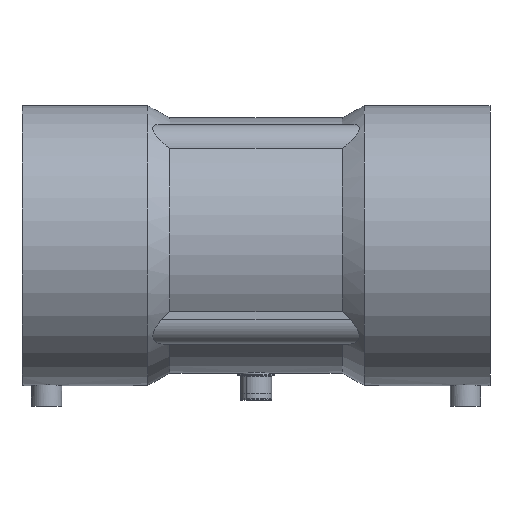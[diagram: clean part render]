
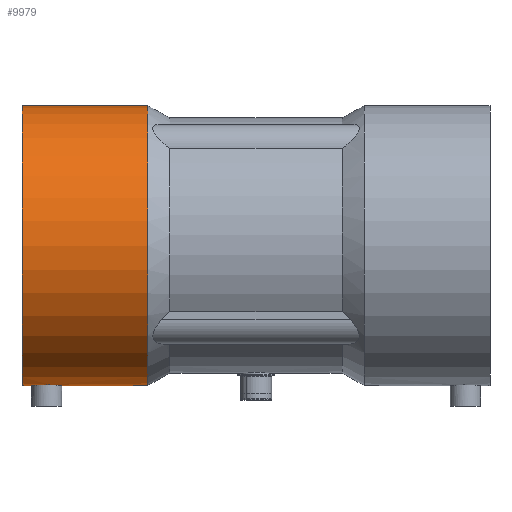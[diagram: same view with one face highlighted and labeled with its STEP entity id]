
A CAD part, front view. The second image highlights one B-rep face of the part: STEP entity #9979.
In plain terms, the highlighted cylindrical face has radius 74 mm (diameter 148 mm), a partial arc.
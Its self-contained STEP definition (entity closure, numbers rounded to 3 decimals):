
#5754 = LINE ( 'NONE', #5755, #8461 ) ;
#5755 = CARTESIAN_POINT ( 'NONE',  ( -95.25, 0., -74. ) ) ;
#5763 = LINE ( 'NONE', #5764, #8465 ) ;
#5764 = CARTESIAN_POINT ( 'NONE',  ( -95.25, 0., 74. ) ) ;
#5768 = DIRECTION ( 'NONE',  ( -1., 0., 0. ) ) ;
#5769 = LINE ( 'NONE', #5770, #8463 ) ;
#5770 = CARTESIAN_POINT ( 'NONE',  ( -95.25, 0., -74. ) ) ;
#5771 = DIRECTION ( 'NONE',  ( -1., 0., 0. ) ) ;
#5773 = CARTESIAN_POINT ( 'NONE',  ( -124., 0., 0. ) ) ;
#5774 = DIRECTION ( 'NONE',  ( -1., 0., 0. ) ) ;
#5775 = DIRECTION ( 'NONE',  ( 0., 0., -1. ) ) ;
#5777 = DIRECTION ( 'NONE',  ( -1., 0., 0. ) ) ;
#5780 = CARTESIAN_POINT ( 'NONE',  ( -57.5, 0., 0. ) ) ;
#5781 = DIRECTION ( 'NONE',  ( -1., 0., 0. ) ) ;
#5782 = DIRECTION ( 'NONE',  ( 0., 0., -1. ) ) ;
#5784 = CARTESIAN_POINT ( 'NONE',  ( -103., -0.529, -74. ) ) ;
#5788 = CARTESIAN_POINT ( 'NONE',  ( -103., 0., -74. ) ) ;
#5792 = CARTESIAN_POINT ( 'NONE',  ( -103.052, -1.049, -73.994 ) ) ;
#5793 = CARTESIAN_POINT ( 'NONE',  ( -103.205, -1.816, -73.978 ) ) ;
#5794 = CARTESIAN_POINT ( 'NONE',  ( -103.268, -2.07, -73.971 ) ) ;
#5795 = CARTESIAN_POINT ( 'NONE',  ( -103.42, -2.573, -73.956 ) ) ;
#5796 = CARTESIAN_POINT ( 'NONE',  ( -103.51, -2.823, -73.947 ) ) ;
#5797 = CARTESIAN_POINT ( 'NONE',  ( -103.811, -3.549, -73.916 ) ) ;
#5798 = CARTESIAN_POINT ( 'NONE',  ( -104.057, -4.009, -73.893 ) ) ;
#5799 = CARTESIAN_POINT ( 'NONE',  ( -104.638, -4.878, -73.84 ) ) ;
#5800 = CARTESIAN_POINT ( 'NONE',  ( -104.975, -5.289, -73.812 ) ) ;
#5801 = CARTESIAN_POINT ( 'NONE',  ( -105.713, -6.027, -73.755 ) ) ;
#5802 = CARTESIAN_POINT ( 'NONE',  ( -106.116, -6.358, -73.727 ) ) ;
#5803 = CARTESIAN_POINT ( 'NONE',  ( -106.772, -6.796, -73.687 ) ) ;
#5804 = CARTESIAN_POINT ( 'NONE',  ( -106.999, -6.932, -73.675 ) ) ;
#5805 = CARTESIAN_POINT ( 'NONE',  ( -107.46, -7.179, -73.651 ) ) ;
#5806 = CARTESIAN_POINT ( 'NONE',  ( -107.932, -7.402, -73.629 ) ) ;
#5807 = CARTESIAN_POINT ( 'NONE',  ( -108.423, -7.578, -73.611 ) ) ;
#5808 = CARTESIAN_POINT ( 'NONE',  ( -108.924, -7.73, -73.595 ) ) ;
#5809 = CARTESIAN_POINT ( 'NONE',  ( -109.181, -7.795, -73.588 ) ) ;
#5810 = CARTESIAN_POINT ( 'NONE',  ( -109.955, -7.949, -73.572 ) ) ;
#5811 = CARTESIAN_POINT ( 'NONE',  ( -110.475, -8., -73.566 ) ) ;
#5812 = CARTESIAN_POINT ( 'NONE',  ( -111.519, -8., -73.566 ) ) ;
#5813 = CARTESIAN_POINT ( 'NONE',  ( -112.05, -7.948, -73.572 ) ) ;
#5814 = CARTESIAN_POINT ( 'NONE',  ( -113.076, -7.744, -73.594 ) ) ;
#5815 = CARTESIAN_POINT ( 'NONE',  ( -113.575, -7.592, -73.61 ) ) ;
#5816 = CARTESIAN_POINT ( 'NONE',  ( -114.302, -7.292, -73.64 ) ) ;
#5817 = CARTESIAN_POINT ( 'NONE',  ( -114.542, -7.178, -73.651 ) ) ;
#5818 = CARTESIAN_POINT ( 'NONE',  ( -115.005, -6.93, -73.675 ) ) ;
#5819 = CARTESIAN_POINT ( 'NONE',  ( -115.229, -6.796, -73.687 ) ) ;
#5820 = CARTESIAN_POINT ( 'NONE',  ( -115.878, -6.362, -73.727 ) ) ;
#5821 = CARTESIAN_POINT ( 'NONE',  ( -116.283, -6.031, -73.755 ) ) ;
#5822 = CARTESIAN_POINT ( 'NONE',  ( -117.03, -5.284, -73.812 ) ) ;
#5823 = CARTESIAN_POINT ( 'NONE',  ( -117.36, -4.88, -73.84 ) ) ;
#5824 = CARTESIAN_POINT ( 'NONE',  ( -117.795, -4.231, -73.879 ) ) ;
#5825 = CARTESIAN_POINT ( 'NONE',  ( -117.929, -4.007, -73.892 ) ) ;
#5826 = CARTESIAN_POINT ( 'NONE',  ( -118.177, -3.544, -73.915 ) ) ;
#5827 = CARTESIAN_POINT ( 'NONE',  ( -118.29, -3.304, -73.927 ) ) ;
#5828 = CARTESIAN_POINT ( 'NONE',  ( -118.592, -2.578, -73.957 ) ) ;
#5829 = CARTESIAN_POINT ( 'NONE',  ( -118.743, -2.079, -73.973 ) ) ;
#5830 = CARTESIAN_POINT ( 'NONE',  ( -118.948, -1.053, -73.994 ) ) ;
#5831 = CARTESIAN_POINT ( 'NONE',  ( -119., -0.522, -74. ) ) ;
#5832 = CARTESIAN_POINT ( 'NONE',  ( -119., 0., -74. ) ) ;
#6925 = VERTEX_POINT ( 'NONE', #7317 ) ;
#6926 = VERTEX_POINT ( 'NONE', #7318 ) ;
#6928 = VERTEX_POINT ( 'NONE', #7320 ) ;
#6931 = VERTEX_POINT ( 'NONE', #7323 ) ;
#6934 = VERTEX_POINT ( 'NONE', #7326 ) ;
#6949 = VERTEX_POINT ( 'NONE', #7341 ) ;
#7317 = CARTESIAN_POINT ( 'NONE',  ( -124., 0., 74. ) ) ;
#7318 = CARTESIAN_POINT ( 'NONE',  ( -124., 0., -74. ) ) ;
#7320 = CARTESIAN_POINT ( 'NONE',  ( -57.5, 0., 74. ) ) ;
#7323 = CARTESIAN_POINT ( 'NONE',  ( -57.5, 0., -74. ) ) ;
#7326 = CARTESIAN_POINT ( 'NONE',  ( -103., 0., -74. ) ) ;
#7341 = CARTESIAN_POINT ( 'NONE',  ( -119., 0., -74. ) ) ;
#8378 = AXIS2_PLACEMENT_3D ( 'NONE', #8868, #8864, #8871 ) ;
#8445 = CIRCLE ( 'NONE', #8469, 74. ) ;
#8461 = VECTOR ( 'NONE', #5768, 1000. ) ;
#8463 = VECTOR ( 'NONE', #5771, 1000. ) ;
#8464 = CIRCLE ( 'NONE', #8466, 74. ) ;
#8465 = VECTOR ( 'NONE', #5777, 1000. ) ;
#8466 = AXIS2_PLACEMENT_3D ( 'NONE', #5773, #5774, #5775 ) ;
#8469 = AXIS2_PLACEMENT_3D ( 'NONE', #5780, #5781, #5782 ) ;
#8864 = DIRECTION ( 'NONE',  ( -1., 0., 0. ) ) ;
#8867 = FACE_OUTER_BOUND ( 'NONE', #10484, .T. ) ;
#8868 = CARTESIAN_POINT ( 'NONE',  ( -95.25, 0., 0. ) ) ;
#8870 = CYLINDRICAL_SURFACE ( 'NONE', #8378, 74. ) ;
#8871 = DIRECTION ( 'NONE',  ( 0., 0., -1. ) ) ;
#9979 = ADVANCED_FACE ( 'NONE', ( #8867 ), #8870, .T. ) ;
#10052 = EDGE_CURVE ( 'NONE', #6931, #6934, #5754, .T. ) ;
#10053 = EDGE_CURVE ( 'NONE', #6949, #6926, #5769, .T. ) ;
#10054 = EDGE_CURVE ( 'NONE', #6926, #6925, #8464, .T. ) ;
#10055 = EDGE_CURVE ( 'NONE', #6928, #6925, #5763, .T. ) ;
#10056 = EDGE_CURVE ( 'NONE', #6931, #6928, #8445, .T. ) ;
#10060 = EDGE_CURVE ( 'NONE', #6934, #6949, #18838, .T. ) ;
#10439 = ORIENTED_EDGE ( 'NONE', *, *, #10056, .T. ) ;
#10440 = ORIENTED_EDGE ( 'NONE', *, *, #10055, .T. ) ;
#10441 = ORIENTED_EDGE ( 'NONE', *, *, #10054, .F. ) ;
#10442 = ORIENTED_EDGE ( 'NONE', *, *, #10053, .F. ) ;
#10443 = ORIENTED_EDGE ( 'NONE', *, *, #10060, .F. ) ;
#10444 = ORIENTED_EDGE ( 'NONE', *, *, #10052, .F. ) ;
#10484 = EDGE_LOOP ( 'NONE', ( #10439, #10440, #10441, #10442, #10443, #10444 ) ) ;
#18838 = B_SPLINE_CURVE_WITH_KNOTS ( 'NONE', 3,
 ( #5788, #5784, #5792, #5793, #5794, #5795, #5796, #5797, #5798, #5799, #5800, #5801, #5802, #5803, #5804, #5805, #5806, #5807, #5808, #5809, #5810, #5811, #5812, #5813, #5814, #5815, #5816, #5817, #5818, #5819, #5820, #5821, #5822, #5823, #5824, #5825, #5826, #5827, #5828, #5829, #5830, #5831, #5832 ),
 .UNSPECIFIED., .F., .F.,
 ( 4, 2, 2, 2, 2, 2, 2, 2, 1, 2, 2, 2, 2, 2, 2, 2, 2, 2, 2, 2, 2, 4 ),
 ( 0., 0.002, 0.002, 0.003, 0.005, 0.006, 0.008, 0.009, 0.009, 0.01, 0.011, 0.013, 0.014, 0.016, 0.016, 0.017, 0.019, 0.02, 0.021, 0.022, 0.023, 0.025 ),
 .UNSPECIFIED. ) ;
